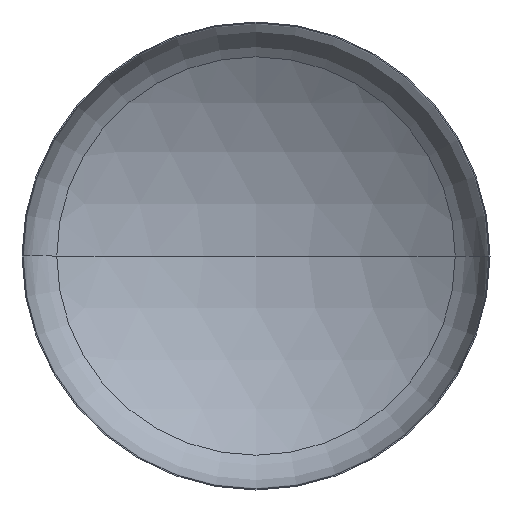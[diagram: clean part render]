
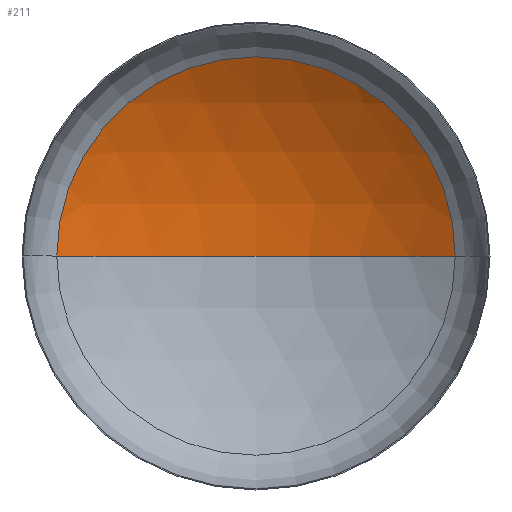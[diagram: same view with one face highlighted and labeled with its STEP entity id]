
A CAD part, front view. The second image highlights one B-rep face of the part: STEP entity #211.
In plain terms, the highlighted spherical face has radius 4800 mm.
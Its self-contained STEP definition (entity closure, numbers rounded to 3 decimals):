
#17 = AXIS2_PLACEMENT_3D ( 'NONE', #204, #278, #101 ) ;
#35 = VERTEX_POINT ( 'NONE', #267 ) ;
#72 = VERTEX_POINT ( 'NONE', #197 ) ;
#97 = VERTEX_POINT ( 'NONE', #297 ) ;
#98 = ORIENTED_EDGE ( 'NONE', *, *, #398, .T. ) ;
#101 = DIRECTION ( 'NONE',  ( 1., 0., 0. ) ) ;
#103 = DIRECTION ( 'NONE',  ( -1., 0., 0. ) ) ;
#110 = EDGE_LOOP ( 'NONE', ( #378, #318, #98 ) ) ;
#150 = AXIS2_PLACEMENT_3D ( 'NONE', #248, #170, #247 ) ;
#155 = CIRCLE ( 'NONE', #17, 2554.219 ) ;
#165 = CIRCLE ( 'NONE', #360, 4800. ) ;
#170 = DIRECTION ( 'NONE',  ( 0., 0., -1. ) ) ;
#179 = CARTESIAN_POINT ( 'NONE',  ( 0., -3240.82, 0. ) ) ;
#197 = CARTESIAN_POINT ( 'NONE',  ( 0., 1559.18, 0. ) ) ;
#204 = CARTESIAN_POINT ( 'NONE',  ( 0., 823.164, 0. ) ) ;
#205 = SPHERICAL_SURFACE ( 'NONE', #150, 4800. ) ;
#206 = CARTESIAN_POINT ( 'NONE',  ( 0., -3240.82, 0. ) ) ;
#207 = DIRECTION ( 'NONE',  ( 0., 0., 1. ) ) ;
#211 = ADVANCED_FACE ( 'NONE', ( #272 ), #205, .F. ) ;
#247 = DIRECTION ( 'NONE',  ( -1., 0., 0. ) ) ;
#248 = CARTESIAN_POINT ( 'NONE',  ( 0., -3240.82, 0. ) ) ;
#267 = CARTESIAN_POINT ( 'NONE',  ( -2554.219, 823.164, 0. ) ) ;
#272 = FACE_OUTER_BOUND ( 'NONE', #110, .T. ) ;
#278 = DIRECTION ( 'NONE',  ( 0., -1., 0. ) ) ;
#297 = CARTESIAN_POINT ( 'NONE',  ( 2554.219, 823.164, 0. ) ) ;
#305 = CIRCLE ( 'NONE', #390, 4800. ) ;
#318 = ORIENTED_EDGE ( 'NONE', *, *, #386, .T. ) ;
#360 = AXIS2_PLACEMENT_3D ( 'NONE', #206, #207, #383 ) ;
#361 = DIRECTION ( 'NONE',  ( 0., 0., -1. ) ) ;
#369 = EDGE_CURVE ( 'NONE', #72, #35, #165, .T. ) ;
#378 = ORIENTED_EDGE ( 'NONE', *, *, #369, .F. ) ;
#383 = DIRECTION ( 'NONE',  ( 1., 0., 0. ) ) ;
#386 = EDGE_CURVE ( 'NONE', #72, #97, #305, .T. ) ;
#390 = AXIS2_PLACEMENT_3D ( 'NONE', #179, #361, #103 ) ;
#398 = EDGE_CURVE ( 'NONE', #97, #35, #155, .T. ) ;
